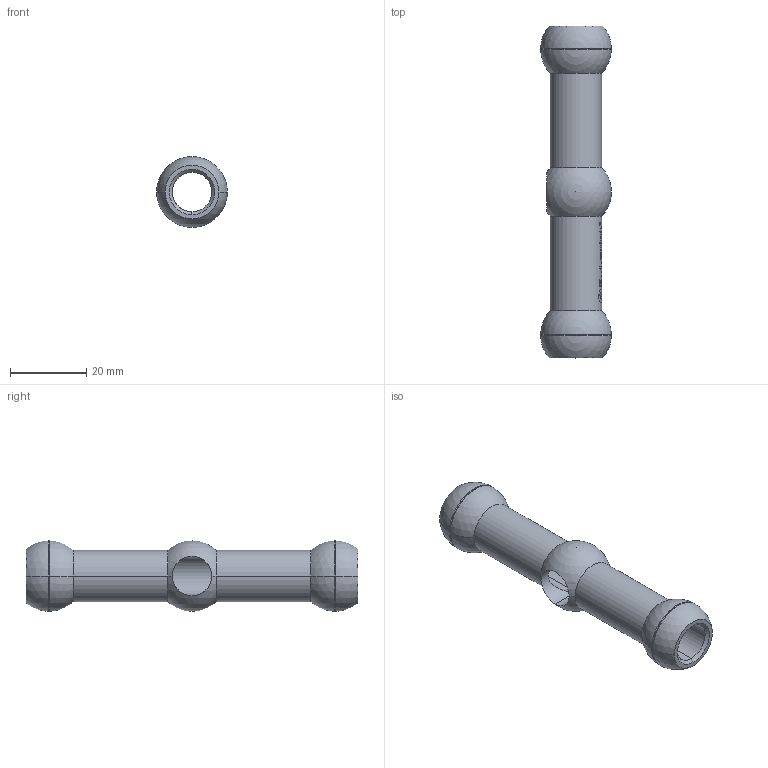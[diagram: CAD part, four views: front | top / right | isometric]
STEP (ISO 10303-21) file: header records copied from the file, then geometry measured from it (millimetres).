
FILE_DESCRIPTION (( 'STEP AP203' ), '1' );
FILE_NAME ('SLM-3XST.STEP', '2018-09-12T13:11:38', ( 'admin' ), ( '' ), 'SwSTEP 2.0', 'SolidWorks 2018', '' );
FILE_SCHEMA (( 'CONFIG_CONTROL_DESIGN' ));
Length unit declared in the file: inch
Products named in the file (1): SLM-3XST
Bounding box: 18.54 x 87 x 18.54 mm (x, y, z)
Volume: 8014.2 mm3; surface area: 7188.3 mm2
Topology: 1 solids, 1 shells, 140 faces, 1236 edges, 1141 vertices
Faces by surface type: cylinder 116, sphere 10, torus 8, cone 4, plane 2
Entity records: 13492 total; most frequent: CARTESIAN_POINT 4835, ORIENTED_EDGE 2462, EDGE_CURVE 1231, DIRECTION 1143, VERTEX_POINT 1138, B_SPLINE_CURVE_WITH_KNOTS 657, AXIS2_PLACEMENT_3D 430, CIRCLE 289
